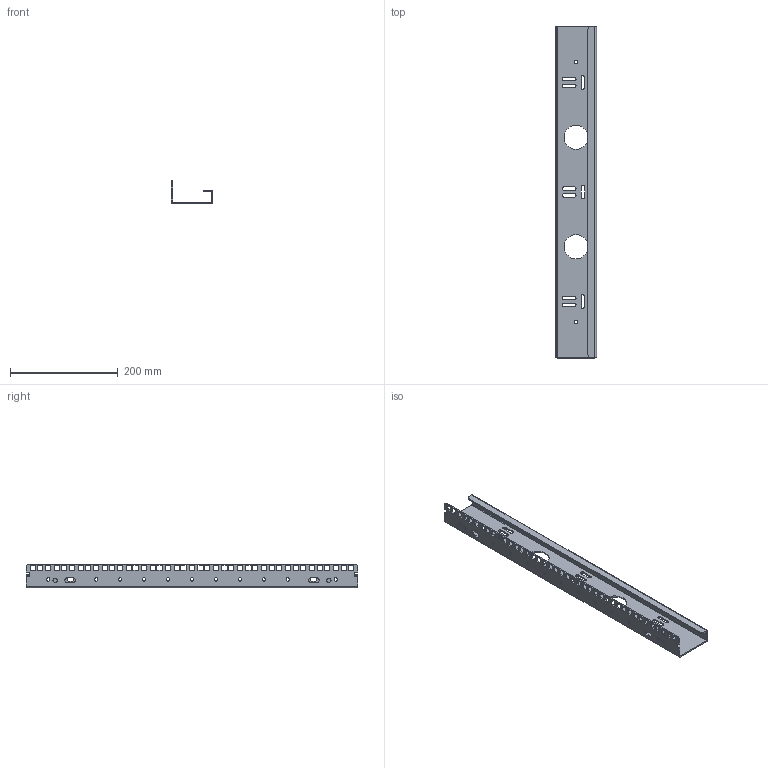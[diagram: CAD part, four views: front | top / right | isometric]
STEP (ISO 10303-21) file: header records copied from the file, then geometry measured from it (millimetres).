
FILE_DESCRIPTION((''),'2;1');
FILE_NAME('C:\Users\KYLEB\Desktop\Mounting Rails\8405-ES1P\3005-E2P.stp','2011-06-29T13:50:00',('KyleB'),(''),'Autodesk Inventor 2011','Autodesk Inventor 2011','');
FILE_SCHEMA(('AUTOMOTIVE_DESIGN { 1 0 10303 214 1 1 1 1 }'));
Length unit declared in the file: inch
Products named in the file (1): I001568
Bounding box: 76.2 x 615.95 x 44.45 mm (x, y, z)
Volume: 211522.7 mm3; surface area: 178737.3 mm2
Topology: 1 solids, 1 shells, 292 faces, 885 edges, 595 vertices
Faces by surface type: plane 224, cylinder 68
Full cylindrical faces by diameter (mm): 6.35 x22, 7.938 x2, 44.45 x2
Entity records: 9968 total; most frequent: CARTESIAN_POINT 1717, ORIENTED_EDGE 1688, DIRECTION 1566, EDGE_CURVE 844, VECTOR 708, LINE 708, VERTEX_POINT 580, EDGE_LOOP 488
